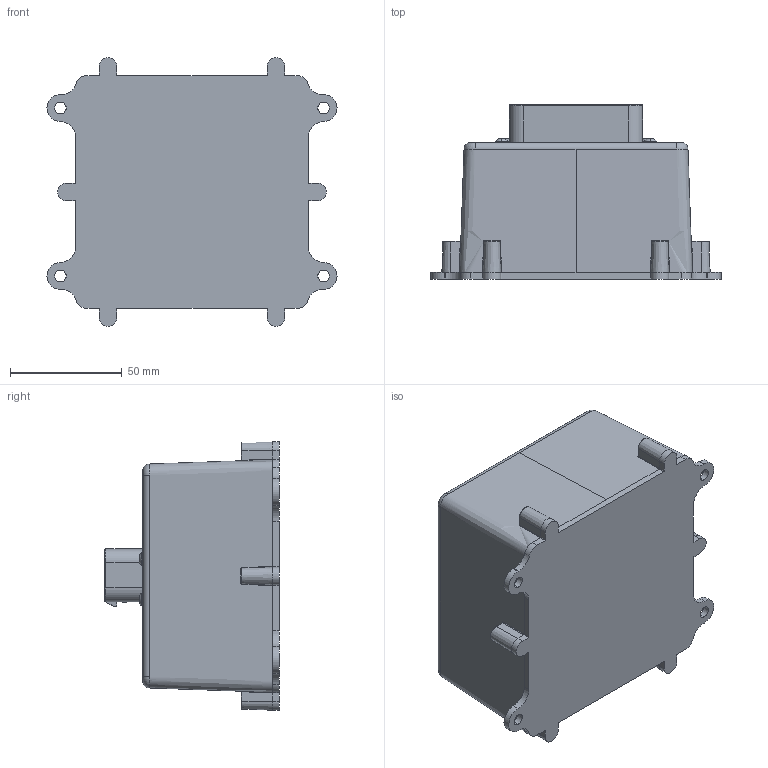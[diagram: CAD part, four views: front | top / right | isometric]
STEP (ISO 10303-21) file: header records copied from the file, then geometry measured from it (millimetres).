
FILE_DESCRIPTION (( 'STEP AP203' ), '1' );
FILE_NAME ('PA-087-005-rev-C-Solid.STEP', '2024-01-06T12:23:27', ( '' ), ( '' ), 'SwSTEP 2.0', 'SolidWorks 2023', '' );
FILE_SCHEMA (( 'CONFIG_CONTROL_DESIGN' ));
Length unit declared in the file: millimetre
Products named in the file (1): PA-087-005-rev-C-Solid
Bounding box: 129.5 x 78 x 119.84 mm (x, y, z)
Volume: 660572.7 mm3; surface area: 54617 mm2
Topology: 1 solids, 11 shells, 677 faces, 1639 edges, 1014 vertices
Faces by surface type: plane 297, cylinder 205, cone 113, bspline 38, torus 16, sphere 8
Entity records: 21091 total; most frequent: CARTESIAN_POINT 5207, DIRECTION 3364, ORIENTED_EDGE 3238, EDGE_CURVE 1619, AXIS2_PLACEMENT_3D 1225, VERTEX_POINT 1014, VECTOR 914, LINE 914
